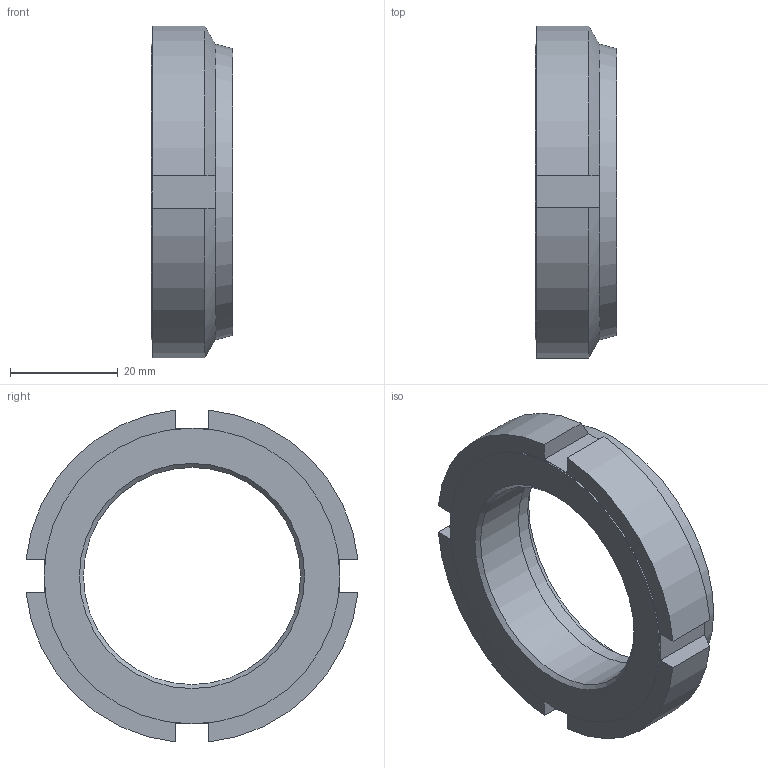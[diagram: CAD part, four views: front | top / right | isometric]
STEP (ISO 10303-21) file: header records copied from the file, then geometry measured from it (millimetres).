
FILE_DESCRIPTION( ( 'STEP AP203' ), '1' );
FILE_NAME( 'C:/Temp/Ganter_Step_05_03_2020/data/3_2/gn1804_1/Slotted locknut self-locking GN 1804.1-M42x1,5.stp', '2020-03-13T05:25:17', ( 'License CC BY-ND 4.0' ), ( 'CADENAS' ), ' ', 'PARTsolutions', ' ' );
FILE_SCHEMA( ( 'CONFIG_CONTROL_DESIGN' ) );
Length unit declared in the file: millimetre
Products named in the file (1): _Slotted locknut self-locking GN 1804.1-M42x1,5
Bounding box: 15.2 x 61.71 x 61.71 mm (x, y, z)
Volume: 21796.9 mm3; surface area: 7989.1 mm2
Topology: 1 solids, 1 shells, 34 faces, 79 edges, 49 vertices
Faces by surface type: plane 20, cylinder 8, cone 6
Full cylindrical faces by diameter (mm): 40.376 x1, 41.5 x1, 44 x1, 55 x1
Entity records: 1018 total; most frequent: CARTESIAN_POINT 229, DIRECTION 152, ORIENTED_EDGE 146, EDGE_CURVE 73, AXIS2_PLACEMENT_3D 60, VERTEX_POINT 49, EDGE_LOOP 44, FACE_OUTER_BOUND 38
